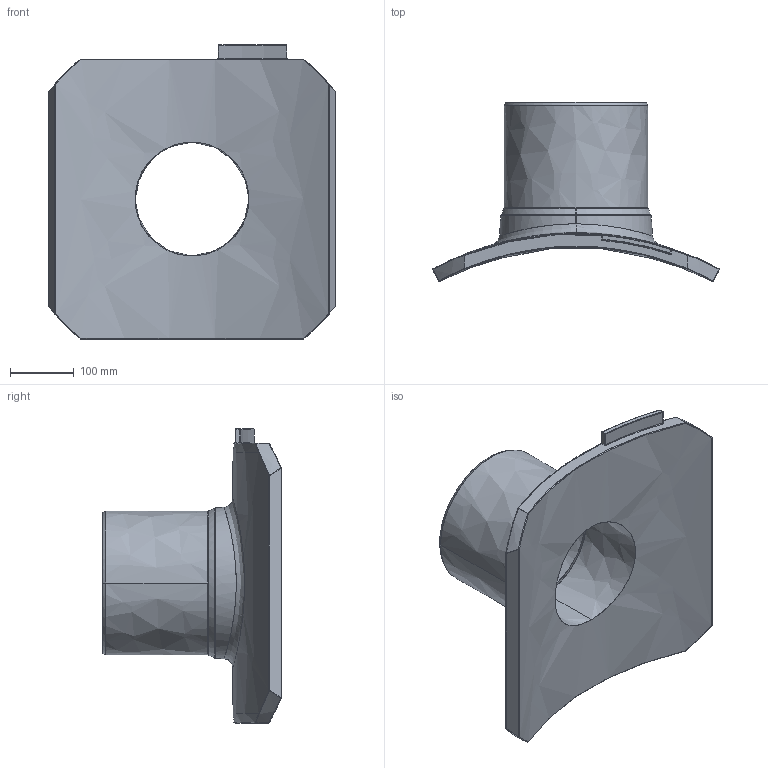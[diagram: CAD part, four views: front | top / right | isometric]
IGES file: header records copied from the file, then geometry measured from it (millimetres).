
Start section:  PTC IGES file: sa-uni_d900_225_01.igs
Global section: file name: sa-uni_d900_225_01.igs; native system: Creo Parametric by PTC Inc.; preprocessor: 2024133; author: mikulicp; organization: Unknown; date: 20241029.134501; units: millimetre
Bounding box: 448.18 x 279.78 x 460 mm (x, y, z)
Surface area: 653878.8 mm2 (no closed solid volume)
Topology: 0 solids, 0 shells, 235 faces, 1138 edges, 1138 vertices
Faces by surface type: bspline 235
